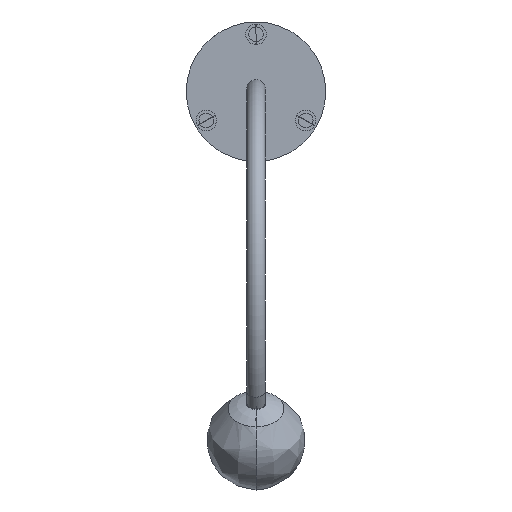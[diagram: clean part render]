
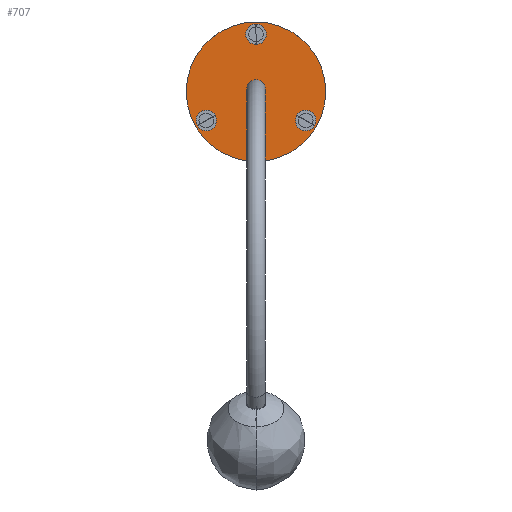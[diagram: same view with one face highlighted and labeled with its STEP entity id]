
A CAD part, top view. The second image highlights one B-rep face of the part: STEP entity #707.
In plain terms, the highlighted planar face has unit normal (0, 0, 1).
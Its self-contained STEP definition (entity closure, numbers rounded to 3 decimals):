
#20=FACE_BOUND('',#281,.T.);
#21=FACE_BOUND('',#282,.T.);
#22=FACE_BOUND('',#283,.T.);
#161=PLANE('',#880);
#219=FACE_OUTER_BOUND('',#280,.T.);
#280=EDGE_LOOP('',(#638,#639));
#281=EDGE_LOOP('',(#640,#641));
#282=EDGE_LOOP('',(#642,#643));
#283=EDGE_LOOP('',(#644,#645));
#331=VERTEX_POINT('',#1477);
#332=VERTEX_POINT('',#1479);
#337=VERTEX_POINT('',#1497);
#338=VERTEX_POINT('',#1499);
#343=VERTEX_POINT('',#1517);
#344=VERTEX_POINT('',#1519);
#345=VERTEX_POINT('',#1525);
#346=VERTEX_POINT('',#1526);
#419=EDGE_CURVE('',#332,#331,#757,.T.);
#421=EDGE_CURVE('',#331,#332,#758,.T.);
#429=EDGE_CURVE('',#338,#337,#763,.T.);
#431=EDGE_CURVE('',#337,#338,#764,.T.);
#439=EDGE_CURVE('',#344,#343,#769,.T.);
#441=EDGE_CURVE('',#343,#344,#770,.T.);
#442=EDGE_CURVE('',#345,#346,#771,.T.);
#446=EDGE_CURVE('',#346,#345,#773,.T.);
#638=ORIENTED_EDGE('',*,*,#446,.T.);
#639=ORIENTED_EDGE('',*,*,#442,.T.);
#640=ORIENTED_EDGE('',*,*,#441,.T.);
#641=ORIENTED_EDGE('',*,*,#439,.T.);
#642=ORIENTED_EDGE('',*,*,#431,.T.);
#643=ORIENTED_EDGE('',*,*,#429,.T.);
#644=ORIENTED_EDGE('',*,*,#421,.T.);
#645=ORIENTED_EDGE('',*,*,#419,.T.);
#707=ADVANCED_FACE('',(#219,#20,#21,#22),#161,.T.);
#757=CIRCLE('',#850,6.234);
#758=CIRCLE('',#852,6.234);
#763=CIRCLE('',#860,6.234);
#764=CIRCLE('',#862,6.234);
#769=CIRCLE('',#870,6.234);
#770=CIRCLE('',#872,6.234);
#771=CIRCLE('',#874,42.5);
#773=CIRCLE('',#877,42.5);
#850=AXIS2_PLACEMENT_3D('',#1480,#1059,#1060);
#852=AXIS2_PLACEMENT_3D('',#1483,#1064,#1065);
#860=AXIS2_PLACEMENT_3D('',#1500,#1083,#1084);
#862=AXIS2_PLACEMENT_3D('',#1503,#1088,#1089);
#870=AXIS2_PLACEMENT_3D('',#1520,#1107,#1108);
#872=AXIS2_PLACEMENT_3D('',#1523,#1112,#1113);
#874=AXIS2_PLACEMENT_3D('',#1527,#1116,#1117);
#877=AXIS2_PLACEMENT_3D('',#1534,#1124,#1125);
#880=AXIS2_PLACEMENT_3D('',#1537,#1130,#1131);
#1059=DIRECTION('center_axis',(0.,0.,-1.));
#1060=DIRECTION('ref_axis',(0.995,-0.105,0.));
#1064=DIRECTION('center_axis',(0.,0.,-1.));
#1065=DIRECTION('ref_axis',(0.995,-0.105,0.));
#1083=DIRECTION('center_axis',(0.,0.,-1.));
#1084=DIRECTION('ref_axis',(-0.407,0.914,0.));
#1088=DIRECTION('center_axis',(0.,0.,-1.));
#1089=DIRECTION('ref_axis',(-0.407,0.914,0.));
#1107=DIRECTION('center_axis',(0.,0.,-1.));
#1108=DIRECTION('ref_axis',(-0.588,-0.809,0.));
#1112=DIRECTION('center_axis',(0.,0.,-1.));
#1113=DIRECTION('ref_axis',(-0.588,-0.809,0.));
#1116=DIRECTION('center_axis',(0.,0.,1.));
#1117=DIRECTION('ref_axis',(1.,0.,0.));
#1124=DIRECTION('center_axis',(0.,0.,1.));
#1125=DIRECTION('ref_axis',(1.,0.,0.));
#1130=DIRECTION('center_axis',(0.,0.,1.));
#1131=DIRECTION('ref_axis',(0.,1.,0.));
#1477=CARTESIAN_POINT('',(-24.907,-1014.38,4.));
#1479=CARTESIAN_POINT('',(-35.705,-1020.614,4.));
#1480=CARTESIAN_POINT('Origin',(-30.306,-1017.497,4.));
#1483=CARTESIAN_POINT('Origin',(-30.306,-1017.497,4.));
#1497=CARTESIAN_POINT('',(24.907,-1014.38,4.));
#1499=CARTESIAN_POINT('',(35.705,-1020.614,4.));
#1500=CARTESIAN_POINT('Origin',(30.306,-1017.497,4.));
#1503=CARTESIAN_POINT('Origin',(30.306,-1017.497,4.));
#1517=CARTESIAN_POINT('',(0.,-971.24,4.));
#1519=CARTESIAN_POINT('',(0.,-958.771,4.));
#1520=CARTESIAN_POINT('Origin',(0.,-965.006,
4.));
#1523=CARTESIAN_POINT('Origin',(0.,-965.006,
4.));
#1525=CARTESIAN_POINT('',(42.5,-1000.,4.));
#1526=CARTESIAN_POINT('',(-42.5,-1000.,4.));
#1527=CARTESIAN_POINT('Origin',(0.,-1000.,4.));
#1534=CARTESIAN_POINT('Origin',(0.,-1000.,4.));
#1537=CARTESIAN_POINT('Origin',(42.5,-1000.,4.));
